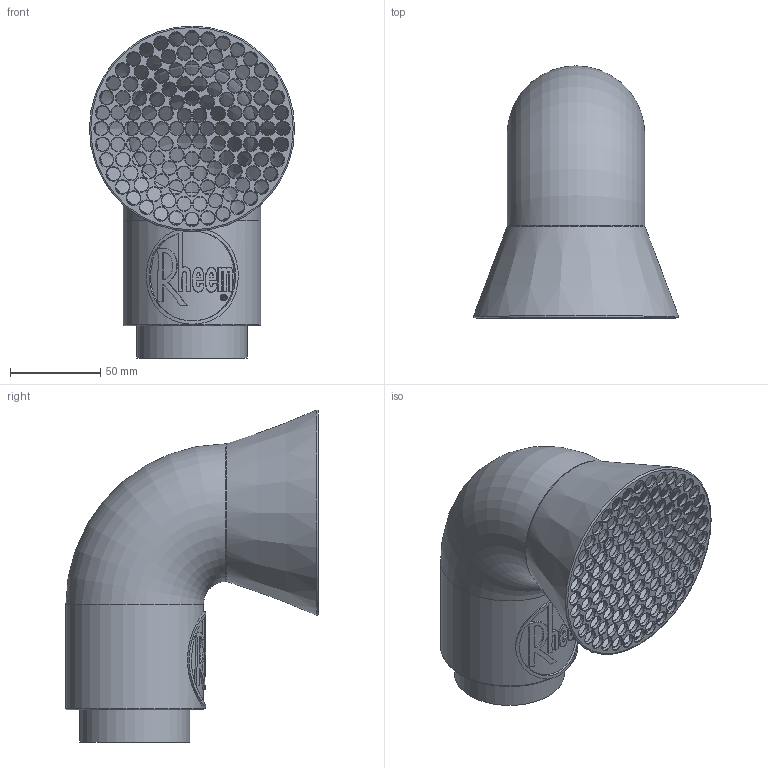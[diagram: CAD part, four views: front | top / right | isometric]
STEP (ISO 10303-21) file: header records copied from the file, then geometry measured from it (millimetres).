
FILE_DESCRIPTION(/* description */ (''),/* implementation_level */ '2;1');
FILE_NAME(/* name */ 'Rheem vent.step',/* time_stamp */ '2025-11-11T18:00:28-07:00',/* author */ (''),/* organization */ (''),/* preprocessor_version */ 'ST-DEVELOPER v20.1',/* originating_system */ 'Autodesk Translation Framework v14.21.0.0',/* authorisation */ '');
FILE_SCHEMA (('AUTOMOTIVE_DESIGN { 1 0 10303 214 3 1 1 }'));
Length unit declared in the file: inch
Products named in the file (1): Rheem vent
Bounding box: 113.62 x 139.7 x 183.81 mm (x, y, z)
Volume: 142293.7 mm3; surface area: 119705.5 mm2
Topology: 1 solids, 1 shells, 963 faces, 2727 edges, 1745 vertices
Faces by surface type: bspline 444, cone 364, cylinder 143, plane 6, torus 6
Full cylindrical faces by diameter (mm): 7.62 x127, 55.88 x1, 60.96 x1, 71.12 x1, 76.2 x1
Entity records: 60903 total; most frequent: CARTESIAN_POINT 38173, ORIENTED_EDGE 5454, DIRECTION 3584, EDGE_CURVE 2727, VERTEX_POINT 1745, AXIS2_PLACEMENT_3D 1448, EDGE_LOOP 1196, B_SPLINE_CURVE_WITH_KNOTS 1111
